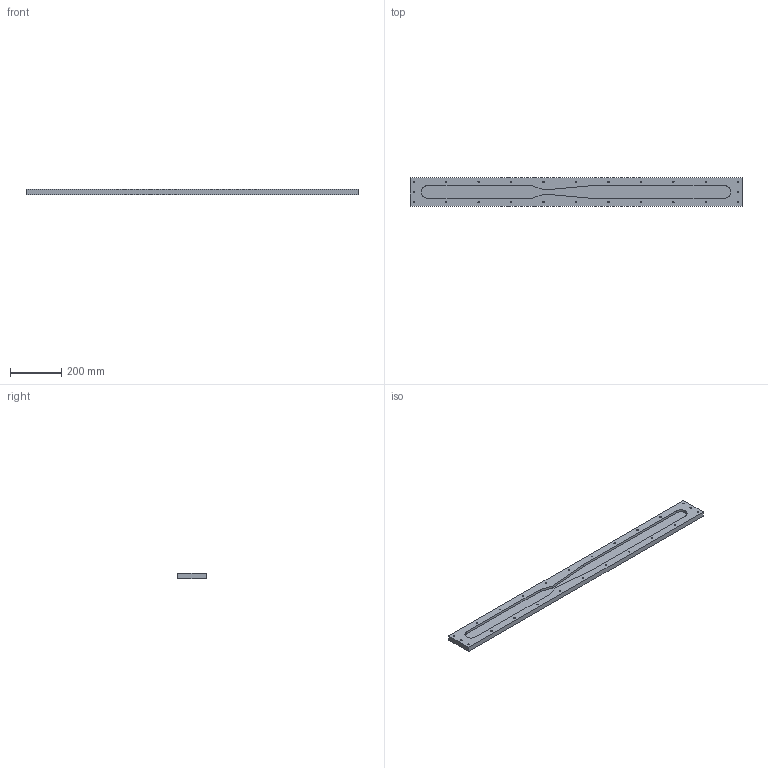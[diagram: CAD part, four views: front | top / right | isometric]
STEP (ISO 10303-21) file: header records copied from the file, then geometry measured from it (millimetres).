
FILE_DESCRIPTION (( 'STEP AP214' ), '1' );
FILE_NAME ('plocha venturiho dyza.STEP', '2019-08-01T09:23:35', ( '' ), ( '' ), 'SwSTEP 2.0', 'SolidWorks 2016', '' );
FILE_SCHEMA (( 'AUTOMOTIVE_DESIGN' ));
Length unit declared in the file: millimetre
Products named in the file (1): plocha venturiho dyza
Bounding box: 1300 x 110 x 20 mm (x, y, z)
Volume: 2289591.1 mm3; surface area: 374395.7 mm2
Topology: 1 solids, 1 shells, 66 faces, 189 edges, 126 vertices
Faces by surface type: cylinder 51, plane 15
Entity records: 2345 total; most frequent: DIRECTION 425, CARTESIAN_POINT 382, ORIENTED_EDGE 378, EDGE_CURVE 189, AXIS2_PLACEMENT_3D 169, VERTEX_POINT 126, EDGE_LOOP 115, CIRCLE 102
